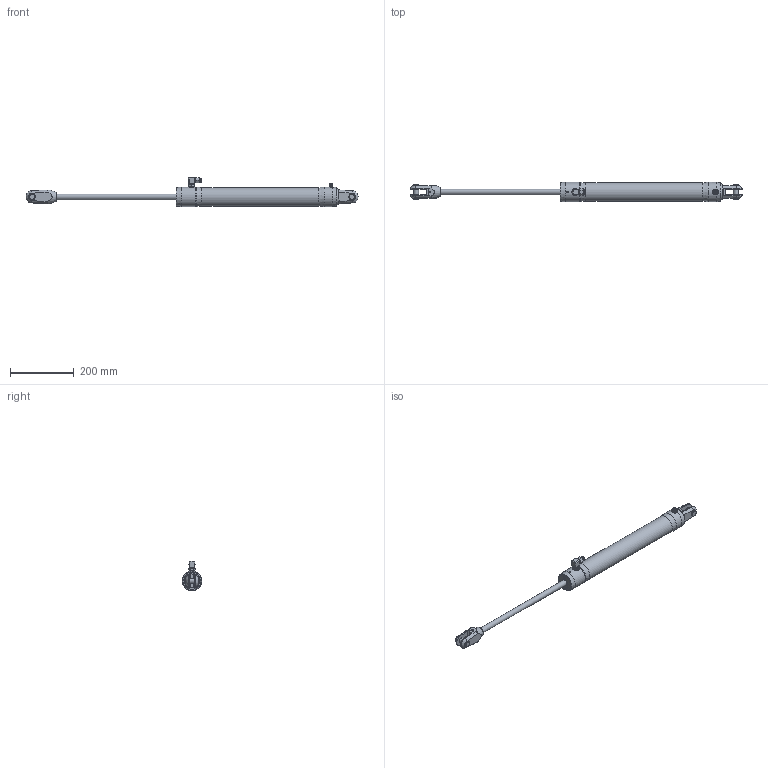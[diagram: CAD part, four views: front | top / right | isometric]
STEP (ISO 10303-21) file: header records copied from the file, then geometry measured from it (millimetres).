
FILE_DESCRIPTION(/* description */ (''),/* implementation_level */ '2;1');
FILE_NAME(/* name */ 'Q:\AA BRAND HYDRAULICS\HYDRAULICS FAMILY DIRECTORY\HYDRAULICS\CYLINDERS\RAMS\ALUMINIUM - STANDARD SINGLE ACTING (-0006 To -0260)\RSA-0017-S0375-NP-71\RSA-0017-S0375-NP-71 (Open).stp',/* time_stamp */ '2017-11-30T10:30:15+00:00',/* author */ ('Lorena'),/* organization */ (''),/* preprocessor_version */ 'ST-DEVELOPER v16.13',/* originating_system */ 'Autodesk Inventor 2018',/* authorisation */ '');
FILE_SCHEMA (('AUTOMOTIVE_DESIGN { 1 0 10303 214 3 1 1 }'));
Products named in the file (1): RSA-0017-S0375-NP-71 (Open)
Bounding box: 1045.65 x 61.4 x 92.2 mm (x, y, z)
Volume: 1651915 mm3; surface area: 158005.1 mm2
Topology: 1 solids, 4 shells, 1605 faces, 4249 edges, 2801 vertices
Faces by surface type: plane 886, bspline 572, cylinder 80, cone 58, torus 5, sphere 4
Full cylindrical faces by diameter (mm): 4 x1, 4.4 x1, 5 x1, 5.1 x1, 6 x2, 6.6 x2, 7 x1, 9 x1, 10 x2, 11.11 x1, 11.157 x1, 11.8 x1, 12 x3, 12.157 x1, 13 x1, 13.157 x2, 14.5 x2, 15.88 x2, 18 x1, 18.3 x2, 19.85 x2, 34 x1, 58.4 x1, 61.4 x4
Entity records: 55942 total; most frequent: CARTESIAN_POINT 18938, ORIENTED_EDGE 8250, DIRECTION 5246, EDGE_CURVE 4125, VERTEX_POINT 2764, LINE 2652, VECTOR 2652, EDGE_LOOP 1844
